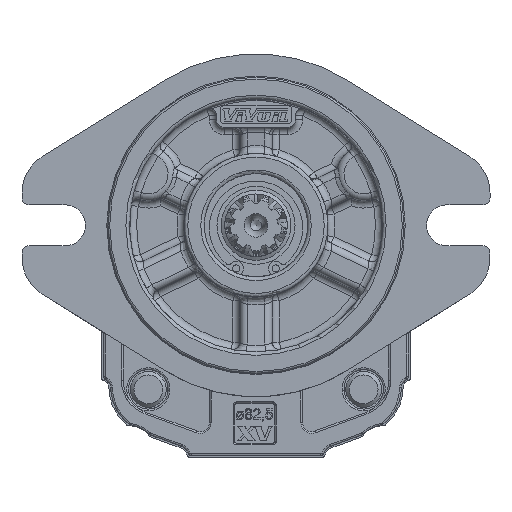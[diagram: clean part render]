
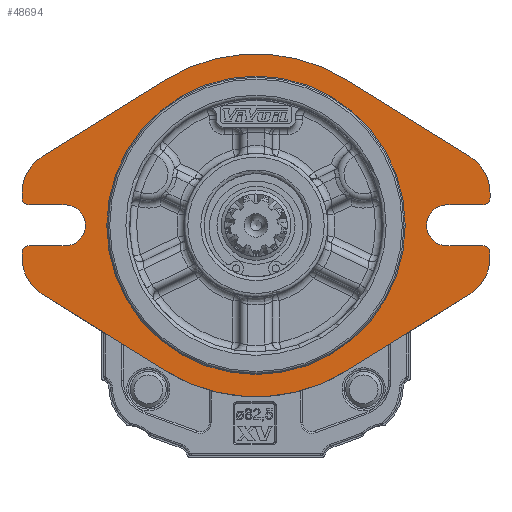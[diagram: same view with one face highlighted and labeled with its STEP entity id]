
A CAD part, front view. The second image highlights one B-rep face of the part: STEP entity #48694.
In plain terms, the highlighted planar face has unit normal (0, -1, 0).
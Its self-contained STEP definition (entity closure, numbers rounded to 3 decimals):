
#2854=LINE('',#68805,#4947);
#2858=LINE('',#68817,#4951);
#2859=LINE('',#68819,#4952);
#2866=LINE('',#68838,#4959);
#2867=LINE('',#68840,#4960);
#2874=LINE('',#68869,#4967);
#2875=LINE('',#68874,#4968);
#2876=LINE('',#68878,#4969);
#2877=LINE('',#68881,#4970);
#2878=LINE('',#68885,#4971);
#2879=LINE('',#68889,#4972);
#2880=LINE('',#68893,#4973);
#4947=VECTOR('',#56122,1000.);
#4951=VECTOR('',#56134,1000.);
#4952=VECTOR('',#56137,1000.);
#4959=VECTOR('',#56152,1000.);
#4960=VECTOR('',#56155,1000.);
#4967=VECTOR('',#56184,1000.);
#4968=VECTOR('',#56187,1000.);
#4969=VECTOR('',#56190,1000.);
#4970=VECTOR('',#56195,1000.);
#4971=VECTOR('',#56198,1000.);
#4972=VECTOR('',#56201,1000.);
#4973=VECTOR('',#56204,1000.);
#6702=PLANE('',#51271);
#10252=ORIENTED_EDGE('',*,*,#19629,.T.);
#10253=ORIENTED_EDGE('',*,*,#19630,.F.);
#10254=ORIENTED_EDGE('',*,*,#19631,.T.);
#10255=ORIENTED_EDGE('',*,*,#19632,.F.);
#10256=ORIENTED_EDGE('',*,*,#19633,.F.);
#10257=ORIENTED_EDGE('',*,*,#19634,.F.);
#10258=ORIENTED_EDGE('',*,*,#19550,.F.);
#10259=ORIENTED_EDGE('',*,*,#19599,.F.);
#10260=ORIENTED_EDGE('',*,*,#19602,.F.);
#10261=ORIENTED_EDGE('',*,*,#19605,.F.);
#10262=ORIENTED_EDGE('',*,*,#19635,.T.);
#10263=ORIENTED_EDGE('',*,*,#19606,.F.);
#10264=ORIENTED_EDGE('',*,*,#19612,.F.);
#10265=ORIENTED_EDGE('',*,*,#19615,.F.);
#10266=ORIENTED_EDGE('',*,*,#19636,.T.);
#10267=ORIENTED_EDGE('',*,*,#19616,.F.);
#10268=ORIENTED_EDGE('',*,*,#19628,.F.);
#10269=ORIENTED_EDGE('',*,*,#19637,.F.);
#10270=ORIENTED_EDGE('',*,*,#19638,.F.);
#10271=ORIENTED_EDGE('',*,*,#19639,.F.);
#10272=ORIENTED_EDGE('',*,*,#19640,.F.);
#10273=ORIENTED_EDGE('',*,*,#19641,.F.);
#10274=ORIENTED_EDGE('',*,*,#19642,.T.);
#10275=ORIENTED_EDGE('',*,*,#19643,.F.);
#10276=ORIENTED_EDGE('',*,*,#19644,.F.);
#19550=EDGE_CURVE('',#24386,#24387,#27198,.T.);
#19599=EDGE_CURVE('',#24429,#24386,#2854,.T.);
#19602=EDGE_CURVE('',#24431,#24429,#27226,.T.);
#19605=EDGE_CURVE('',#24433,#24431,#2858,.T.);
#19606=EDGE_CURVE('',#24434,#24435,#2859,.T.);
#19612=EDGE_CURVE('',#24439,#24434,#27228,.T.);
#19615=EDGE_CURVE('',#24441,#24439,#2866,.T.);
#19616=EDGE_CURVE('',#24442,#24443,#2867,.T.);
#19628=EDGE_CURVE('',#24451,#24442,#27234,.T.);
#19629=EDGE_CURVE('',#24452,#24452,#27235,.T.);
#19630=EDGE_CURVE('',#24453,#24454,#2874,.T.);
#19631=EDGE_CURVE('',#24453,#24455,#27236,.F.);
#19632=EDGE_CURVE('',#24456,#24455,#2875,.T.);
#19633=EDGE_CURVE('',#24457,#24456,#27237,.T.);
#19634=EDGE_CURVE('',#24387,#24457,#2876,.T.);
#19635=EDGE_CURVE('',#24433,#24435,#27238,.F.);
#19636=EDGE_CURVE('',#24441,#24443,#27239,.F.);
#19637=EDGE_CURVE('',#24458,#24451,#2877,.T.);
#19638=EDGE_CURVE('',#24459,#24458,#27240,.T.);
#19639=EDGE_CURVE('',#24460,#24459,#2878,.T.);
#19640=EDGE_CURVE('',#24461,#24460,#27241,.T.);
#19641=EDGE_CURVE('',#24462,#24461,#2879,.T.);
#19642=EDGE_CURVE('',#24462,#24463,#27242,.F.);
#19643=EDGE_CURVE('',#24464,#24463,#2880,.T.);
#19644=EDGE_CURVE('',#24454,#24464,#27243,.T.);
#24386=VERTEX_POINT('',#68680);
#24387=VERTEX_POINT('',#68682);
#24429=VERTEX_POINT('',#68804);
#24431=VERTEX_POINT('',#68810);
#24433=VERTEX_POINT('',#68816);
#24434=VERTEX_POINT('',#68820);
#24435=VERTEX_POINT('',#68821);
#24439=VERTEX_POINT('',#68831);
#24441=VERTEX_POINT('',#68837);
#24442=VERTEX_POINT('',#68841);
#24443=VERTEX_POINT('',#68842);
#24451=VERTEX_POINT('',#68864);
#24452=VERTEX_POINT('',#68868);
#24453=VERTEX_POINT('',#68870);
#24454=VERTEX_POINT('',#68871);
#24455=VERTEX_POINT('',#68873);
#24456=VERTEX_POINT('',#68875);
#24457=VERTEX_POINT('',#68877);
#24458=VERTEX_POINT('',#68882);
#24459=VERTEX_POINT('',#68884);
#24460=VERTEX_POINT('',#68886);
#24461=VERTEX_POINT('',#68888);
#24462=VERTEX_POINT('',#68890);
#24463=VERTEX_POINT('',#68892);
#24464=VERTEX_POINT('',#68894);
#27198=CIRCLE('',#51220,47.75);
#27226=CIRCLE('',#51254,12.);
#27228=CIRCLE('',#51259,5.7);
#27234=CIRCLE('',#51270,12.);
#27235=CIRCLE('',#51272,40.982);
#27236=CIRCLE('',#51273,2.);
#27237=CIRCLE('',#51274,12.);
#27238=CIRCLE('',#51275,2.);
#27239=CIRCLE('',#51276,2.);
#27240=CIRCLE('',#51277,47.75);
#27241=CIRCLE('',#51278,12.);
#27242=CIRCLE('',#51279,2.);
#27243=CIRCLE('',#51280,5.7);
#29058=EDGE_LOOP('',(#10252));
#29059=EDGE_LOOP('',(#10253,#10254,#10255,#10256,#10257,#10258,#10259,#10260,
#10261,#10262,#10263,#10264,#10265,#10266,#10267,#10268,#10269,#10270,#10271,
#10272,#10273,#10274,#10275,#10276));
#31494=FACE_BOUND('',#29058,.T.);
#31495=FACE_BOUND('',#29059,.T.);
#48694=ADVANCED_FACE('',(#31494,#31495),#6702,.F.);
#51220=AXIS2_PLACEMENT_3D('',#68681,#56038,#56039);
#51254=AXIS2_PLACEMENT_3D('',#68811,#56128,#56129);
#51259=AXIS2_PLACEMENT_3D('',#68832,#56146,#56147);
#51270=AXIS2_PLACEMENT_3D('',#68865,#56178,#56179);
#51271=AXIS2_PLACEMENT_3D('',#68866,#56180,#56181);
#51272=AXIS2_PLACEMENT_3D('',#68867,#56182,#56183);
#51273=AXIS2_PLACEMENT_3D('',#68872,#56185,#56186);
#51274=AXIS2_PLACEMENT_3D('',#68876,#56188,#56189);
#51275=AXIS2_PLACEMENT_3D('',#68879,#56191,#56192);
#51276=AXIS2_PLACEMENT_3D('',#68880,#56193,#56194);
#51277=AXIS2_PLACEMENT_3D('',#68883,#56196,#56197);
#51278=AXIS2_PLACEMENT_3D('',#68887,#56199,#56200);
#51279=AXIS2_PLACEMENT_3D('',#68891,#56202,#56203);
#51280=AXIS2_PLACEMENT_3D('',#68895,#56205,#56206);
#56038=DIRECTION('',(0.,1.,0.));
#56039=DIRECTION('',(-1.,0.,0.));
#56122=DIRECTION('',(-0.849,0.,-0.528));
#56128=DIRECTION('',(0.,1.,0.));
#56129=DIRECTION('',(-1.,0.,0.));
#56134=DIRECTION('',(0.,0.,-1.));
#56137=DIRECTION('',(1.,0.,0.));
#56146=DIRECTION('',(0.,-1.,0.));
#56147=DIRECTION('',(1.,0.,0.));
#56152=DIRECTION('',(-1.,0.,0.));
#56155=DIRECTION('',(0.,0.,-1.));
#56178=DIRECTION('',(0.,1.,0.));
#56179=DIRECTION('',(-1.,0.,0.));
#56180=DIRECTION('',(0.,1.,0.));
#56181=DIRECTION('',(0.,0.,-1.));
#56182=DIRECTION('',(0.,1.,0.));
#56183=DIRECTION('',(-1.,0.,0.));
#56184=DIRECTION('',(1.,0.,0.));
#56185=DIRECTION('',(0.,1.,0.));
#56186=DIRECTION('',(0.,0.,-1.));
#56187=DIRECTION('',(0.,0.,1.));
#56188=DIRECTION('',(0.,1.,0.));
#56189=DIRECTION('',(1.,0.,0.));
#56190=DIRECTION('',(-0.849,0.,0.528));
#56191=DIRECTION('',(0.,1.,0.));
#56192=DIRECTION('',(0.,0.,-1.));
#56193=DIRECTION('',(0.,1.,0.));
#56194=DIRECTION('',(0.,0.,-1.));
#56195=DIRECTION('',(0.849,0.,-0.528));
#56196=DIRECTION('',(0.,1.,0.));
#56197=DIRECTION('',(-1.,0.,0.));
#56198=DIRECTION('',(0.849,0.,0.528));
#56199=DIRECTION('',(0.,1.,0.));
#56200=DIRECTION('',(1.,0.,0.));
#56201=DIRECTION('',(0.,0.,1.));
#56202=DIRECTION('',(0.,1.,0.));
#56203=DIRECTION('',(0.,0.,-1.));
#56204=DIRECTION('',(-1.,0.,0.));
#56205=DIRECTION('',(0.,-1.,0.));
#56206=DIRECTION('',(-1.,0.,0.));
#68680=CARTESIAN_POINT('',(25.235,-19.,-24.837));
#68681=CARTESIAN_POINT('',(0.,-19.,15.7));
#68682=CARTESIAN_POINT('',(-25.235,-19.,-24.837));
#68804=CARTESIAN_POINT('',(59.532,-19.,-3.487));
#68805=CARTESIAN_POINT('',(59.532,-19.,-3.487));
#68810=CARTESIAN_POINT('',(65.19,-19.,6.7));
#68811=CARTESIAN_POINT('',(53.19,-19.,6.7));
#68816=CARTESIAN_POINT('',(65.19,-19.,8.));
#68817=CARTESIAN_POINT('',(65.19,-19.,6.7));
#68819=CARTESIAN_POINT('',(53.19,-19.,10.));
#68820=CARTESIAN_POINT('',(53.19,-19.,10.));
#68821=CARTESIAN_POINT('',(63.19,-19.,10.));
#68831=CARTESIAN_POINT('',(53.19,-19.,21.4));
#68832=CARTESIAN_POINT('',(53.19,-19.,15.7));
#68837=CARTESIAN_POINT('',(63.19,-19.,21.4));
#68838=CARTESIAN_POINT('',(53.19,-19.,21.4));
#68840=CARTESIAN_POINT('',(65.19,-19.,24.7));
#68841=CARTESIAN_POINT('',(65.19,-19.,24.7));
#68842=CARTESIAN_POINT('',(65.19,-19.,23.4));
#68864=CARTESIAN_POINT('',(59.532,-19.,34.887));
#68865=CARTESIAN_POINT('',(53.19,-19.,24.7));
#68866=CARTESIAN_POINT('',(0.,-19.,15.7));
#68867=CARTESIAN_POINT('',(0.,-19.,15.7));
#68868=CARTESIAN_POINT('',(-40.982,-19.,15.7));
#68869=CARTESIAN_POINT('',(-53.19,-19.,10.));
#68870=CARTESIAN_POINT('',(-63.19,-19.,10.));
#68871=CARTESIAN_POINT('',(-53.19,-19.,10.));
#68872=CARTESIAN_POINT('',(-63.19,-19.,8.));
#68873=CARTESIAN_POINT('',(-65.19,-19.,8.));
#68874=CARTESIAN_POINT('',(-65.19,-19.,6.7));
#68875=CARTESIAN_POINT('',(-65.19,-19.,6.7));
#68876=CARTESIAN_POINT('',(-53.19,-19.,6.7));
#68877=CARTESIAN_POINT('',(-59.532,-19.,-3.487));
#68878=CARTESIAN_POINT('',(-59.532,-19.,-3.487));
#68879=CARTESIAN_POINT('',(63.19,-19.,8.));
#68880=CARTESIAN_POINT('',(63.19,-19.,23.4));
#68881=CARTESIAN_POINT('',(25.235,-19.,56.237));
#68882=CARTESIAN_POINT('',(25.235,-19.,56.237));
#68883=CARTESIAN_POINT('',(0.,-19.,15.7));
#68884=CARTESIAN_POINT('',(-25.235,-19.,56.237));
#68885=CARTESIAN_POINT('',(-25.235,-19.,56.237));
#68886=CARTESIAN_POINT('',(-59.532,-19.,34.887));
#68887=CARTESIAN_POINT('',(-53.19,-19.,24.7));
#68888=CARTESIAN_POINT('',(-65.19,-19.,24.7));
#68889=CARTESIAN_POINT('',(-65.19,-19.,24.7));
#68890=CARTESIAN_POINT('',(-65.19,-19.,23.4));
#68891=CARTESIAN_POINT('',(-63.19,-19.,23.4));
#68892=CARTESIAN_POINT('',(-63.19,-19.,21.4));
#68893=CARTESIAN_POINT('',(-53.19,-19.,21.4));
#68894=CARTESIAN_POINT('',(-53.19,-19.,21.4));
#68895=CARTESIAN_POINT('',(-53.19,-19.,15.7));
